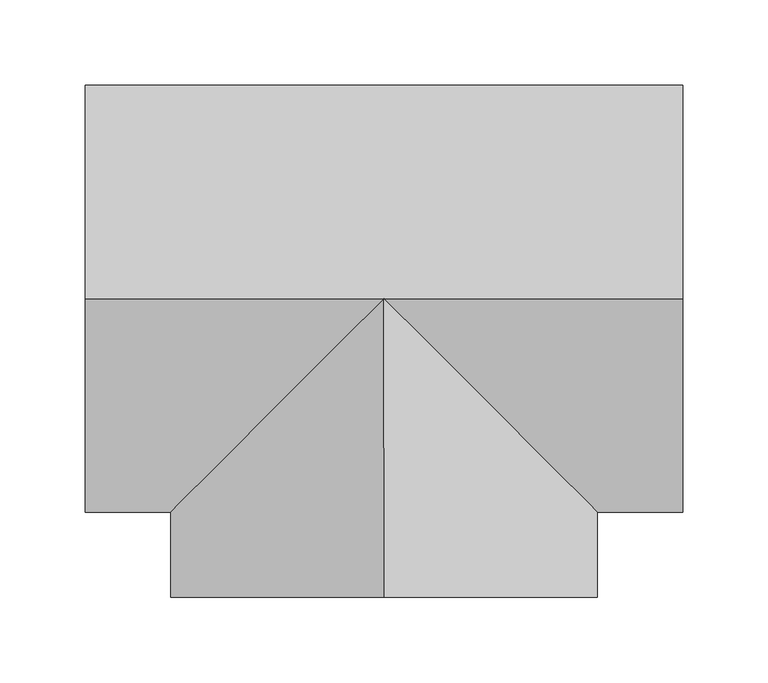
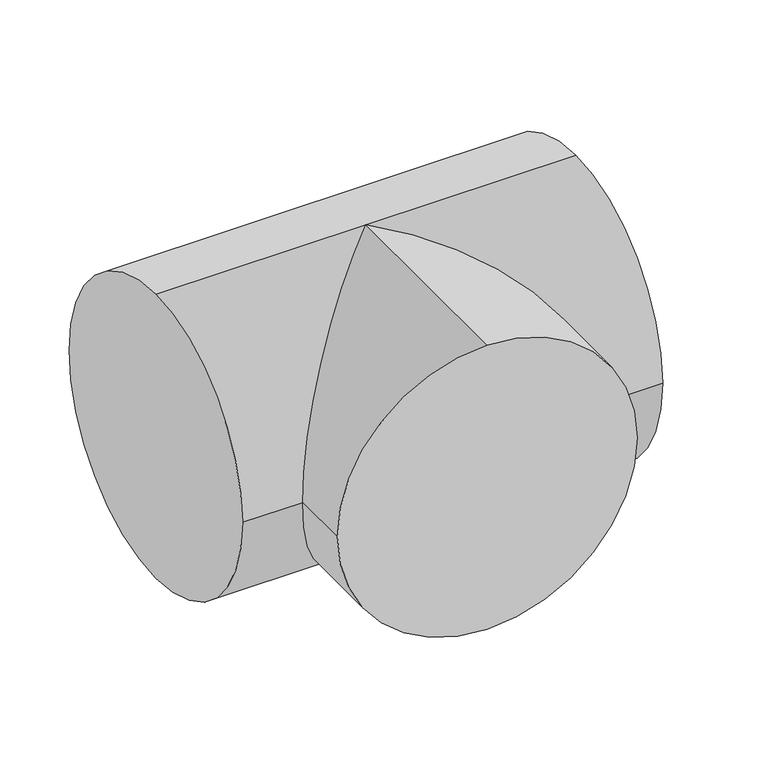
"""IFC4 building model written with IfcOpenShell, lengths in millimetres: duct fitting geometry, ADSK_ТройникВоздуховодов_Круглый : Стандарт."""

from ifc_helpers import new_model, si_unit, frame, origin, place, context, project, spatial, circle_curve, ellipse_curve, source, transform, mapped, element, save
from ifc_brep_helpers import plane_surface, cylinder_surface, advanced_brep


def duct_fitting_96cd7033(model_context):
    return source(origin(), model_context, "Body", "AdvancedBrep", [
        advanced_brep(
        [(0.0, -175.0, 125.0), (-125.0, -175.0, 0.0), (0.0, -175.0, -125.0), (125.0, -175.0, 0.0), (125.0, -125.0, 0.0), (0.0, 0.0, 125.0), (0.0, 0.0, -125.0), (-125.0, -125.0, 0.0), (-175.0, 0.0, 125.0), (-175.0, 125.0, 0.0), (-175.0, 0.0, -125.0), (-175.0, -125.0, 0.0), (175.0, 0.0, 125.0), (175.0, -125.0, 0.0), (175.0, 0.0, -125.0), (175.0, 125.0, 0.0)],
        [
            (0, 1, circle_curve(frame((0.0, -175.0, 0.0), z_axis=(0.0, -1.0, 0.0), x_axis=(1.0, 0.0, 0.0)), 125.0)),
            (1, 2, circle_curve(frame((0.0, -175.0, 0.0), z_axis=(0.0, -1.0, 0.0), x_axis=(1.0, 0.0, 0.0)), 125.0)),
            (2, 3, circle_curve(frame((0.0, -175.0, 0.0), z_axis=(0.0, -1.0, 0.0), x_axis=(1.0, 0.0, 0.0)), 125.0)),
            (3, 0, circle_curve(frame((0.0, -175.0, 0.0), z_axis=(0.0, -1.0, 0.0), x_axis=(1.0, 0.0, 0.0)), 125.0)),
            (3, 4),
            (4, 5, ellipse_curve(frame((0.0, 0.0, 0.0), z_axis=(-0.7071067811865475, -0.7071067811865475, 0.0), x_axis=(-0.7071067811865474, 0.7071067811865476, 0.0)), 176.7766953, 125.0)),
            (5, 0),
            (2, 6),
            (6, 4, ellipse_curve(frame((0.0, 0.0, 0.0), z_axis=(-0.7071067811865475, -0.7071067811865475, 0.0), x_axis=(-0.7071067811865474, 0.7071067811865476, 0.0)), 176.7766953, 125.0)),
            (1, 7),
            (7, 6, ellipse_curve(frame((0.0, 0.0, 0.0), z_axis=(0.7071067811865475, -0.7071067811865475, 0.0), x_axis=(0.7071067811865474, 0.7071067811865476, 0.0)), 176.7766953, 125.0)),
            (5, 7, ellipse_curve(frame((0.0, 0.0, 0.0), z_axis=(0.7071067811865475, -0.7071067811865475, 0.0), x_axis=(0.7071067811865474, 0.7071067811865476, 0.0)), 176.7766953, 125.0)),
            (8, 9, circle_curve(frame((-175.0, 0.0, 0.0), z_axis=(-1.0, 0.0, 0.0), x_axis=(0.0, 1.0, 0.0)), 125.0)),
            (9, 10, circle_curve(frame((-175.0, 0.0, 0.0), z_axis=(-1.0, 0.0, 0.0), x_axis=(0.0, 1.0, 0.0)), 125.0)),
            (10, 11, circle_curve(frame((-175.0, 0.0, 0.0), z_axis=(-1.0, 0.0, 0.0), x_axis=(0.0, 1.0, 0.0)), 125.0)),
            (11, 8, circle_curve(frame((-175.0, 0.0, 0.0), z_axis=(-1.0, 0.0, 0.0), x_axis=(0.0, 1.0, 0.0)), 125.0)),
            (12, 13, circle_curve(frame((175.0, 0.0, 0.0), z_axis=(1.0, 0.0, 0.0), x_axis=(0.0, 1.0, 0.0)), 125.0)),
            (13, 14, circle_curve(frame((175.0, 0.0, 0.0), z_axis=(1.0, 0.0, 0.0), x_axis=(0.0, 1.0, 0.0)), 125.0)),
            (14, 15, circle_curve(frame((175.0, 0.0, 0.0), z_axis=(1.0, 0.0, 0.0), x_axis=(0.0, 1.0, 0.0)), 125.0)),
            (15, 12, circle_curve(frame((175.0, 0.0, 0.0), z_axis=(1.0, 0.0, 0.0), x_axis=(0.0, 1.0, 0.0)), 125.0)),
            (8, 5),
            (5, 12),
            (15, 9),
            (14, 6),
            (6, 10),
            (7, 11),
            (13, 4),
        ],
        [
            plane_surface(frame((0.0, -175.0, 0.0), z_axis=(0.0, -1.0, 0.0), x_axis=(0.0, 0.0, 1.0))),
            cylinder_surface(frame((0.0, 0.0, 0.0), z_axis=(0.0, 1.0, 0.0), x_axis=(1.0, 0.0, 0.0)), 125.0),
            plane_surface(frame((-175.0, 0.0, 0.0), z_axis=(-1.0, 0.0, 0.0), x_axis=(0.0, 0.0, 1.0))),
            plane_surface(frame((175.0, 0.0, 0.0), z_axis=(1.0, 0.0, 0.0), x_axis=(0.0, 0.0, 1.0))),
            cylinder_surface(frame((-175.0, 0.0, 0.0), z_axis=(-1.0, 0.0, 0.0), x_axis=(0.0, 1.0, 0.0)), 125.0),
        ],
        [
            (0, [[1, 2, 3, 4]]),
            (1, [[-4, 5, 6, 7]]),
            (1, [[-3, 8, 9, -5]]),
            (1, [[-2, 10, 11, -8]]),
            (1, [[-1, -7, 12, -10]]),
            (2, [[13, 14, 15, 16]]),
            (3, [[17, 18, 19, 20]]),
            (4, [[-13, 21, 22, -20, 23]]),
            (4, [[-14, -23, -19, 24, 25]]),
            (4, [[-15, -25, -11, 26]]),
            (4, [[-18, 27, -9, -24]]),
            (4, [[-16, -26, -12, -21]]),
            (4, [[-17, -22, -6, -27]]),
        ],
    ),
    ])


if __name__ == "__main__":
    model = new_model("IFC4")
    model_context = context("Model", 3, world=origin())
    ifc_project = project(units=[si_unit("LENGTHUNIT", "METRE", prefix="MILLI")], contexts=[model_context])
    site = spatial("IfcSite", under=ifc_project)
    building = spatial("IfcBuilding", under=site)
    placement = place(None, origin())
    duct_fitting_shape = duct_fitting_96cd7033(model_context)
    element("IfcDuctFitting", 1, ObjectType="ADSK_ТройникВоздуховодов_Круглый : Стандарт", at=placement, inside=building, context=model_context, shape_type="MappedRepresentation", body=[
        mapped(duct_fitting_shape, transform((0.0, 0.0, 0.0), x_axis=(1.0, 0.0, 0.0), y_axis=(0.0, 1.0, 0.0), z_axis=(0.0, 0.0, 1.0))),
    ])
    save(model, "model.ifc")
